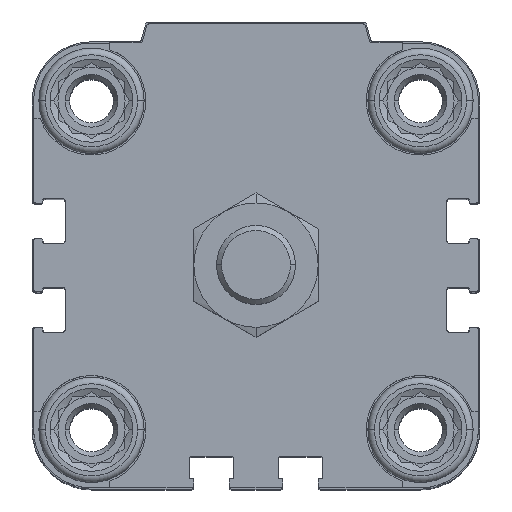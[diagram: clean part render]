
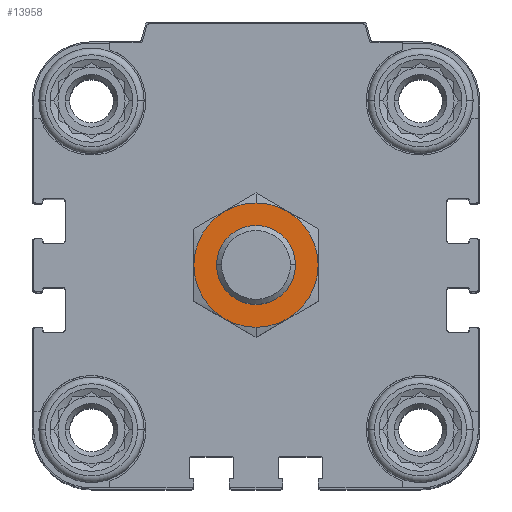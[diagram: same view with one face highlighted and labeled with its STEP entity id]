
A CAD part, top view. The second image highlights one B-rep face of the part: STEP entity #13958.
In plain terms, the highlighted planar face has unit normal (0, 0, 1).
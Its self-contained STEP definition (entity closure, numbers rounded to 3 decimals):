
#348 = DIRECTION ( 'NONE',  ( 0., -1., 0. ) ) ;
#572 = CIRCLE ( 'NONE', #19369, 9.45 ) ;
#1710 = CARTESIAN_POINT ( 'NONE',  ( 0., 6., 18.5 ) ) ;
#1942 = DIRECTION ( 'NONE',  ( 0., 0., -1. ) ) ;
#2510 = CIRCLE ( 'NONE', #10349, 9.45 ) ;
#2632 = AXIS2_PLACEMENT_3D ( 'NONE', #23184, #4554, #6512 ) ;
#4303 = ORIENTED_EDGE ( 'NONE', *, *, #18323, .F. ) ;
#4472 = ORIENTED_EDGE ( 'NONE', *, *, #5342, .T. ) ;
#4554 = DIRECTION ( 'NONE',  ( 0., 0., -1. ) ) ;
#4638 = EDGE_CURVE ( 'NONE', #19408, #23770, #4775, .T. ) ;
#4685 = CIRCLE ( 'NONE', #7806, 6. ) ;
#4775 = CIRCLE ( 'NONE', #12216, 6. ) ;
#4797 = FACE_OUTER_BOUND ( 'NONE', #12052, .T. ) ;
#4908 = EDGE_LOOP ( 'NONE', ( #4472, #11722 ) ) ;
#5342 = EDGE_CURVE ( 'NONE', #23770, #19408, #4685, .T. ) ;
#6028 = CARTESIAN_POINT ( 'NONE',  ( 0., -6., 18.5 ) ) ;
#6135 = CARTESIAN_POINT ( 'NONE',  ( 0., -9.45, 18.5 ) ) ;
#6512 = DIRECTION ( 'NONE',  ( 0., -1., 0. ) ) ;
#6520 = CARTESIAN_POINT ( 'NONE',  ( 0., 0., 18.5 ) ) ;
#7271 = DIRECTION ( 'NONE',  ( 0., -1., 0. ) ) ;
#7516 = CARTESIAN_POINT ( 'NONE',  ( 0., 0., 18.5 ) ) ;
#7806 = AXIS2_PLACEMENT_3D ( 'NONE', #7516, #12908, #7271 ) ;
#8776 = VERTEX_POINT ( 'NONE', #6135 ) ;
#10349 = AXIS2_PLACEMENT_3D ( 'NONE', #11932, #13650, #12191 ) ;
#11074 = CARTESIAN_POINT ( 'NONE',  ( 0., 9.45, 18.5 ) ) ;
#11315 = VERTEX_POINT ( 'NONE', #11074 ) ;
#11722 = ORIENTED_EDGE ( 'NONE', *, *, #4638, .T. ) ;
#11907 = DIRECTION ( 'NONE',  ( 0., -1., 0. ) ) ;
#11932 = CARTESIAN_POINT ( 'NONE',  ( 0., 0., 18.5 ) ) ;
#12052 = EDGE_LOOP ( 'NONE', ( #4303, #22008 ) ) ;
#12191 = DIRECTION ( 'NONE',  ( 0., -1., 0. ) ) ;
#12216 = AXIS2_PLACEMENT_3D ( 'NONE', #18742, #1942, #348 ) ;
#12908 = DIRECTION ( 'NONE',  ( 0., 0., -1. ) ) ;
#13650 = DIRECTION ( 'NONE',  ( 0., 0., -1. ) ) ;
#13958 = ADVANCED_FACE ( 'NONE', ( #4797, #17309 ), #15815, .F. ) ;
#14000 = DIRECTION ( 'NONE',  ( 0., 0., -1. ) ) ;
#15815 = PLANE ( 'NONE',  #2632 ) ;
#17309 = FACE_BOUND ( 'NONE', #4908, .T. ) ;
#17989 = EDGE_CURVE ( 'NONE', #11315, #8776, #2510, .T. ) ;
#18323 = EDGE_CURVE ( 'NONE', #8776, #11315, #572, .T. ) ;
#18742 = CARTESIAN_POINT ( 'NONE',  ( 0., 0., 18.5 ) ) ;
#19369 = AXIS2_PLACEMENT_3D ( 'NONE', #6520, #14000, #11907 ) ;
#19408 = VERTEX_POINT ( 'NONE', #6028 ) ;
#22008 = ORIENTED_EDGE ( 'NONE', *, *, #17989, .F. ) ;
#23184 = CARTESIAN_POINT ( 'NONE',  ( 0., 0., 18.5 ) ) ;
#23770 = VERTEX_POINT ( 'NONE', #1710 ) ;
